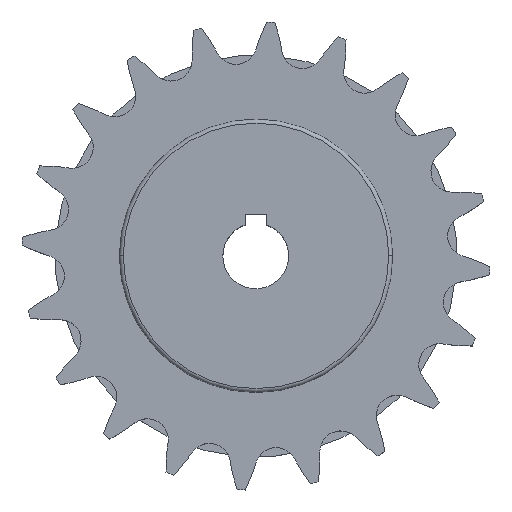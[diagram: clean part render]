
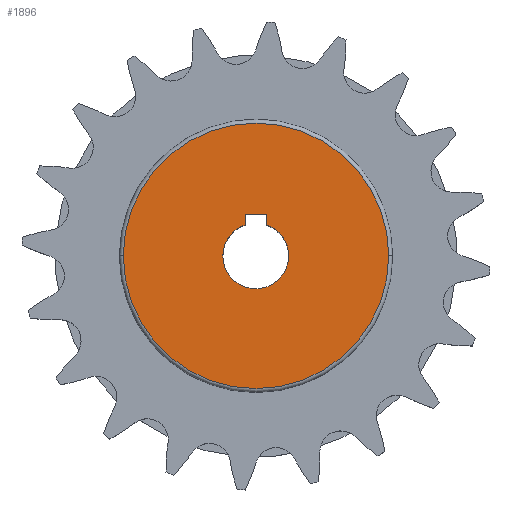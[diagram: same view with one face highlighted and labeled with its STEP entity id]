
A CAD part, top view. The second image highlights one B-rep face of the part: STEP entity #1896.
In plain terms, the highlighted planar face has unit normal (0, 0, 1).
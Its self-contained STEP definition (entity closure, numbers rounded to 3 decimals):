
#1896=ADVANCED_FACE('',(#4660,#4661),#4662,.T.);
#2086=EDGE_CURVE('',#4953,#4954,#4955,.T.);
#3562=EDGE_CURVE('',#4954,#4953,#6943,.T.);
#4660=FACE_BOUND('',#8297,.T.);
#4661=FACE_OUTER_BOUND('',#8298,.T.);
#4662=PLANE('',#8299);
#4953=VERTEX_POINT('',#8911);
#4954=VERTEX_POINT('',#8912);
#4955=CIRCLE('',#8913,50.5);
#6943=CIRCLE('',#12614,50.5);
#8297=EDGE_LOOP('',(#15485,#15486,#15487,#15488,#15489,#15490));
#8298=EDGE_LOOP('',(#15491,#15492));
#8299=AXIS2_PLACEMENT_3D('',#15493,#15494,#15495);
#8911=CARTESIAN_POINT('',(50.5,0.,0.));
#8912=CARTESIAN_POINT('',(-50.5,0.,0.));
#8913=AXIS2_PLACEMENT_3D('',#15792,#15793,#15794);
#12614=AXIS2_PLACEMENT_3D('',#17247,#17248,#17249);
#15485=ORIENTED_EDGE('',*,*,#17442,.T.);
#15486=ORIENTED_EDGE('',*,*,#17425,.T.);
#15487=ORIENTED_EDGE('',*,*,#17438,.T.);
#15488=ORIENTED_EDGE('',*,*,#17432,.T.);
#15489=ORIENTED_EDGE('',*,*,#17436,.T.);
#15490=ORIENTED_EDGE('',*,*,#17446,.T.);
#15491=ORIENTED_EDGE('',*,*,#2086,.F.);
#15492=ORIENTED_EDGE('',*,*,#3562,.F.);
#15493=CARTESIAN_POINT('',(51.106,51.106,0.));
#15494=DIRECTION('',(0.,0.0,1.0));
#15495=DIRECTION('',(0.,-1.0,0.));
#15792=CARTESIAN_POINT('',(0.,0.,0.));
#15793=DIRECTION('',(0.,0.,-1.0));
#15794=DIRECTION('',(1.,0.,0.));
#17247=CARTESIAN_POINT('',(0.,0.,0.));
#17248=DIRECTION('',(0.,0.,-1.0));
#17249=DIRECTION('',(-1.,0.,0.));
#17425=EDGE_CURVE('',#17836,#17833,#17837,.T.);
#17432=EDGE_CURVE('',#17843,#17847,#17849,.T.);
#17436=EDGE_CURVE('',#17847,#17853,#17855,.T.);
#17438=EDGE_CURVE('',#17833,#17843,#17857,.T.);
#17442=EDGE_CURVE('',#17862,#17836,#17863,.T.);
#17446=EDGE_CURVE('',#17853,#17862,#17867,.T.);
#17833=VERTEX_POINT('',#18410);
#17836=VERTEX_POINT('',#18414);
#17837=CIRCLE('',#18415,12.5);
#17843=VERTEX_POINT('',#18422);
#17847=VERTEX_POINT('',#18427);
#17849=CIRCLE('',#18430,12.5);
#17853=VERTEX_POINT('',#18435);
#17855=LINE('',#18438,#18439);
#17857=CIRCLE('',#18441,12.5);
#17862=VERTEX_POINT('',#18447);
#17863=LINE('',#18448,#18449);
#17867=LINE('',#18455,#18456);
#18410=CARTESIAN_POINT('',(12.4,0.,0.));
#18414=CARTESIAN_POINT('',(3.9,11.843,0.0));
#18415=AXIS2_PLACEMENT_3D('',#18787,#18788,#18789);
#18422=CARTESIAN_POINT('',(-12.6,0.,0.));
#18427=CARTESIAN_POINT('',(-4.1,11.843,0.0));
#18430=AXIS2_PLACEMENT_3D('',#18799,#18800,#18801);
#18435=CARTESIAN_POINT('',(-4.1,15.8,0.));
#18438=CARTESIAN_POINT('',(-4.1,29.503,0.));
#18439=VECTOR('',#18804,1.0);
#18441=AXIS2_PLACEMENT_3D('',#18805,#18806,#18807);
#18447=CARTESIAN_POINT('',(3.9,15.8,0.));
#18448=CARTESIAN_POINT('',(3.9,29.503,0.));
#18449=VECTOR('',#18812,1.0);
#18455=CARTESIAN_POINT('',(25.503,15.8,0.));
#18456=VECTOR('',#18815,1.0);
#18787=CARTESIAN_POINT('',(-0.1,0.,0.));
#18788=DIRECTION('',(0.,0.0,-1.0));
#18789=DIRECTION('',(-1.0,0.,0.));
#18799=CARTESIAN_POINT('',(-0.1,0.,0.));
#18800=DIRECTION('',(0.,0.0,-1.0));
#18801=DIRECTION('',(-1.0,0.,0.));
#18804=DIRECTION('',(0.,1.0,0.));
#18805=CARTESIAN_POINT('',(-0.1,0.,0.));
#18806=DIRECTION('',(0.,0.0,-1.0));
#18807=DIRECTION('',(-1.0,0.,0.));
#18812=DIRECTION('',(0.,-1.0,0.));
#18815=DIRECTION('',(1.0,0.,0.));
